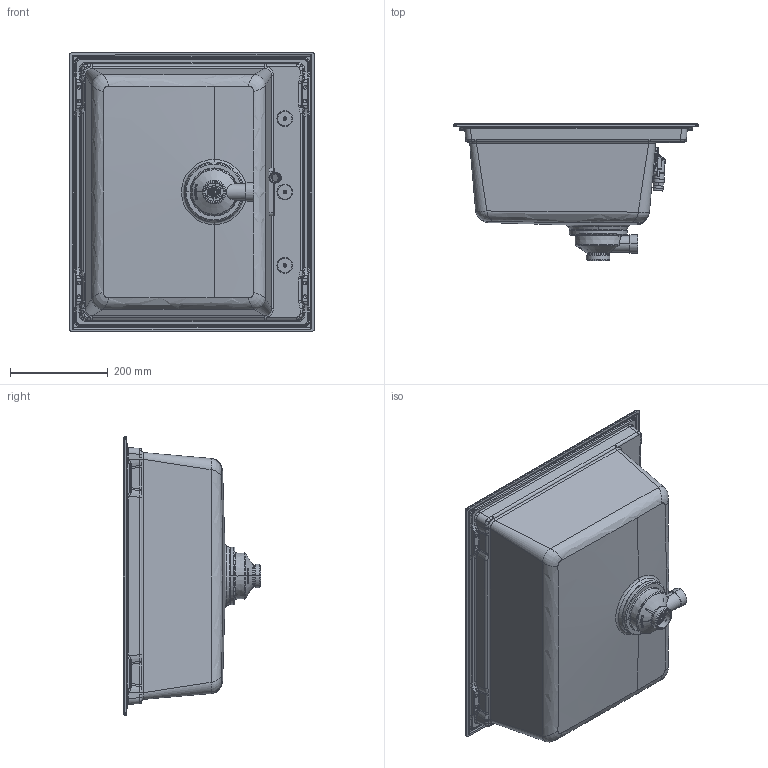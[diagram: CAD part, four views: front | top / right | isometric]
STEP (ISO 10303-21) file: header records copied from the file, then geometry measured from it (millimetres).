
FILE_DESCRIPTION (( 'STEP AP203' ), '1' );
FILE_NAME ('3d2_sintesi_105.STEP', '2022-02-16T10:39:14', ( '' ), ( '' ), 'SwSTEP 2.0', 'SolidWorks 2021', '' );
FILE_SCHEMA (( 'CONFIG_CONTROL_DESIGN' ));
Products named in the file (4): TP_rettangolare slim_anonima; 3d2_sintesi_105; 3d_piletta_2021_1via_X_ASSIEME_LAVELLI_Default<A macchina>; sintesi_105_SBORDATO
Assembly tree (3 placements, depth 2):
  3d2_sintesi_105
    sintesi_105_SBORDATO
    TP_rettangolare slim_anonima
    3d_piletta_2021_1via_X_ASSIEME_LAVELLI_Default<A macchina>
Bounding box: 500 x 280.96 x 570 mm (x, y, z)
Volume: 4672107 mm3; surface area: 1328011.9 mm2
Topology: 10 solids, 10 shells, 3865 faces, 9659 edges, 5864 vertices
Faces by surface type: bspline 1469, cylinder 925, plane 841, cone 393, torus 229, sphere 8
Entity records: 218272 total; most frequent: CARTESIAN_POINT 137540, ORIENTED_EDGE 19178, DIRECTION 13277, EDGE_CURVE 9589, VERTEX_POINT 5863, AXIS2_PLACEMENT_3D 5128, EDGE_LOOP 4070, FACE_OUTER_BOUND 3865
